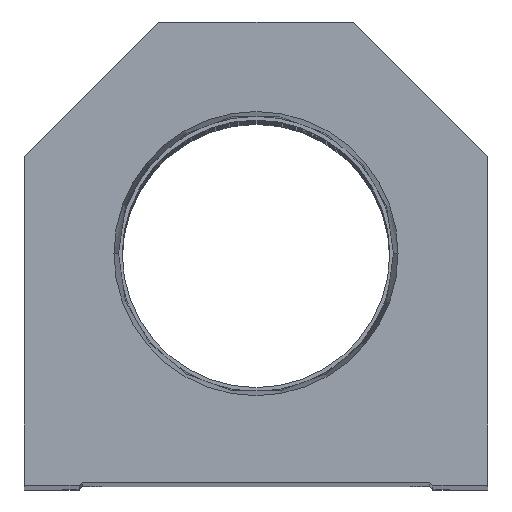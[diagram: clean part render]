
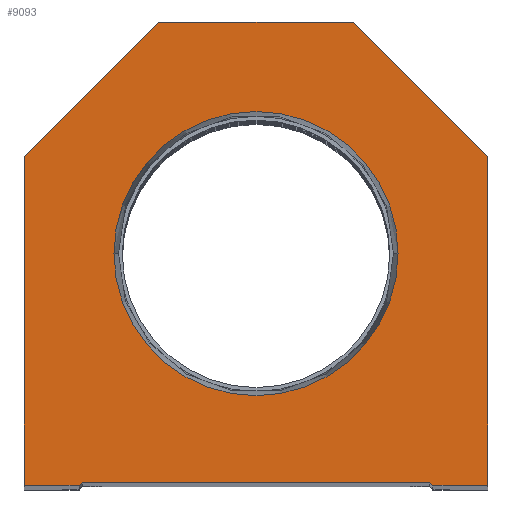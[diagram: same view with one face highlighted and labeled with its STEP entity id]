
A CAD part, top view. The second image highlights one B-rep face of the part: STEP entity #9093.
In plain terms, the highlighted planar face has unit normal (0, 0, 1).
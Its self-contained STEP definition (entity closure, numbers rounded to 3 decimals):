
#46 = VECTOR ( 'NONE', #11772, 1000. ) ;
#159 = ORIENTED_EDGE ( 'NONE', *, *, #9342, .T. ) ;
#284 = CARTESIAN_POINT ( 'NONE',  ( 28.6, 0., 0. ) ) ;
#501 = VERTEX_POINT ( 'NONE', #28058 ) ;
#737 = ORIENTED_EDGE ( 'NONE', *, *, #7680, .T. ) ;
#1243 = EDGE_CURVE ( 'NONE', #25738, #19889, #10236, .T. ) ;
#1634 = AXIS2_PLACEMENT_3D ( 'NONE', #14090, #14243, #16446 ) ;
#1974 = EDGE_LOOP ( 'NONE', ( #1986, #15622 ) ) ;
#1986 = ORIENTED_EDGE ( 'NONE', *, *, #2540, .F. ) ;
#2058 = LINE ( 'NONE', #22334, #3862 ) ;
#2491 = DIRECTION ( 'NONE',  ( 0.707, -0.707, 0. ) ) ;
#2529 = DIRECTION ( 'NONE',  ( 0., 0., 1. ) ) ;
#2540 = EDGE_CURVE ( 'NONE', #10864, #26570, #17704, .T. ) ;
#2826 = CARTESIAN_POINT ( 'NONE',  ( 0., 0., 0. ) ) ;
#3434 = DIRECTION ( 'NONE',  ( 0.707, 0.707, 0. ) ) ;
#3486 = DIRECTION ( 'NONE',  ( 0., 1., 0. ) ) ;
#3862 = VECTOR ( 'NONE', #24229, 1000. ) ;
#4377 = VERTEX_POINT ( 'NONE', #27826 ) ;
#4494 = VECTOR ( 'NONE', #27830, 1000. ) ;
#5037 = CARTESIAN_POINT ( 'NONE',  ( 38.1, 54.1, 0. ) ) ;
#5495 = LINE ( 'NONE', #14770, #16374 ) ;
#5990 = ORIENTED_EDGE ( 'NONE', *, *, #6776, .T. ) ;
#6189 = ORIENTED_EDGE ( 'NONE', *, *, #1243, .T. ) ;
#6434 = CARTESIAN_POINT ( 'NONE',  ( -38.1, 0., 0. ) ) ;
#6593 = VECTOR ( 'NONE', #3486, 1000. ) ;
#6776 = EDGE_CURVE ( 'NONE', #19889, #22499, #28703, .T. ) ;
#7135 = AXIS2_PLACEMENT_3D ( 'NONE', #2826, #2529, #13711 ) ;
#7178 = VECTOR ( 'NONE', #13272, 1000. ) ;
#7680 = EDGE_CURVE ( 'NONE', #18477, #25738, #20431, .T. ) ;
#8425 = VERTEX_POINT ( 'NONE', #6434 ) ;
#8511 = DIRECTION ( 'NONE',  ( -0.707, 0.707, 0. ) ) ;
#8703 = VERTEX_POINT ( 'NONE', #27926 ) ;
#9093 = ADVANCED_FACE ( 'NONE', ( #11799, #22808 ), #25442, .T. ) ;
#9342 = EDGE_CURVE ( 'NONE', #501, #17221, #2058, .T. ) ;
#9562 = DIRECTION ( 'NONE',  ( 1., 0., 0. ) ) ;
#10236 = LINE ( 'NONE', #16749, #6593 ) ;
#10564 = CARTESIAN_POINT ( 'NONE',  ( 38.1, 54.1, 0. ) ) ;
#10737 = VECTOR ( 'NONE', #2491, 1000. ) ;
#10864 = VERTEX_POINT ( 'NONE', #10948 ) ;
#10948 = CARTESIAN_POINT ( 'NONE',  ( 23.374, 38.1, 0. ) ) ;
#11457 = LINE ( 'NONE', #27265, #10737 ) ;
#11620 = CARTESIAN_POINT ( 'NONE',  ( -28.6, 0.5, 0. ) ) ;
#11674 = ORIENTED_EDGE ( 'NONE', *, *, #26620, .T. ) ;
#11772 = DIRECTION ( 'NONE',  ( -1., 0., 0. ) ) ;
#11799 = FACE_BOUND ( 'NONE', #1974, .T. ) ;
#12153 = EDGE_CURVE ( 'NONE', #22499, #501, #27140, .T. ) ;
#12480 = VECTOR ( 'NONE', #8511, 1000. ) ;
#13133 = CARTESIAN_POINT ( 'NONE',  ( 0., 38.1, 0. ) ) ;
#13272 = DIRECTION ( 'NONE',  ( 1., 0., 0. ) ) ;
#13711 = DIRECTION ( 'NONE',  ( 1., 0., 0. ) ) ;
#13822 = LINE ( 'NONE', #22777, #24536 ) ;
#14090 = CARTESIAN_POINT ( 'NONE',  ( 0., 38.1, 0. ) ) ;
#14243 = DIRECTION ( 'NONE',  ( 0., 0., 1. ) ) ;
#14770 = CARTESIAN_POINT ( 'NONE',  ( -14.55, 14.55, 0. ) ) ;
#14840 = CIRCLE ( 'NONE', #1634, 23.374 ) ;
#14880 = CARTESIAN_POINT ( 'NONE',  ( 38.1, 0., 0. ) ) ;
#14974 = ORIENTED_EDGE ( 'NONE', *, *, #23900, .T. ) ;
#15348 = LINE ( 'NONE', #23822, #7178 ) ;
#15622 = ORIENTED_EDGE ( 'NONE', *, *, #19627, .F. ) ;
#15967 = CARTESIAN_POINT ( 'NONE',  ( 16., 76.2, 0. ) ) ;
#16089 = VECTOR ( 'NONE', #26982, 1000. ) ;
#16374 = VECTOR ( 'NONE', #3434, 1000. ) ;
#16423 = CARTESIAN_POINT ( 'NONE',  ( -38.1, 54.1, 0. ) ) ;
#16446 = DIRECTION ( 'NONE',  ( 1., 0., 0. ) ) ;
#16516 = EDGE_LOOP ( 'NONE', ( #11674, #28122, #19814, #14974, #737, #6189, #5990, #17186, #159, #22426 ) ) ;
#16749 = CARTESIAN_POINT ( 'NONE',  ( 38.1, 0., 0. ) ) ;
#17186 = ORIENTED_EDGE ( 'NONE', *, *, #12153, .T. ) ;
#17221 = VERTEX_POINT ( 'NONE', #16423 ) ;
#17555 = DIRECTION ( 'NONE',  ( 1., 0., 0. ) ) ;
#17704 = CIRCLE ( 'NONE', #21014, 23.374 ) ;
#17934 = EDGE_CURVE ( 'NONE', #27934, #8703, #13822, .T. ) ;
#18477 = VERTEX_POINT ( 'NONE', #28739 ) ;
#19517 = EDGE_CURVE ( 'NONE', #17221, #8425, #23478, .T. ) ;
#19601 = DIRECTION ( 'NONE',  ( 0., 0., 1. ) ) ;
#19627 = EDGE_CURVE ( 'NONE', #26570, #10864, #14840, .T. ) ;
#19814 = ORIENTED_EDGE ( 'NONE', *, *, #17934, .T. ) ;
#19889 = VERTEX_POINT ( 'NONE', #5037 ) ;
#20431 = LINE ( 'NONE', #284, #16089 ) ;
#20456 = CARTESIAN_POINT ( 'NONE',  ( 16., 76.2, 0. ) ) ;
#20892 = CARTESIAN_POINT ( 'NONE',  ( -38.1, 0., 0. ) ) ;
#21014 = AXIS2_PLACEMENT_3D ( 'NONE', #13133, #19601, #17555 ) ;
#21512 = CARTESIAN_POINT ( 'NONE',  ( -23.374, 38.1, 0. ) ) ;
#21882 = EDGE_CURVE ( 'NONE', #4377, #27934, #5495, .T. ) ;
#22334 = CARTESIAN_POINT ( 'NONE',  ( -38.1, 54.1, 0. ) ) ;
#22426 = ORIENTED_EDGE ( 'NONE', *, *, #19517, .T. ) ;
#22499 = VERTEX_POINT ( 'NONE', #15967 ) ;
#22777 = CARTESIAN_POINT ( 'NONE',  ( -28.6, 0.5, 0. ) ) ;
#22808 = FACE_OUTER_BOUND ( 'NONE', #16516, .T. ) ;
#23478 = LINE ( 'NONE', #20892, #4494 ) ;
#23822 = CARTESIAN_POINT ( 'NONE',  ( -28.6, 0., 0. ) ) ;
#23900 = EDGE_CURVE ( 'NONE', #8703, #18477, #11457, .T. ) ;
#24229 = DIRECTION ( 'NONE',  ( -0.707, -0.707, 0. ) ) ;
#24536 = VECTOR ( 'NONE', #9562, 1000. ) ;
#25442 = PLANE ( 'NONE',  #7135 ) ;
#25738 = VERTEX_POINT ( 'NONE', #14880 ) ;
#26570 = VERTEX_POINT ( 'NONE', #21512 ) ;
#26620 = EDGE_CURVE ( 'NONE', #8425, #4377, #15348, .T. ) ;
#26982 = DIRECTION ( 'NONE',  ( 1., 0., 0. ) ) ;
#27140 = LINE ( 'NONE', #20456, #46 ) ;
#27265 = CARTESIAN_POINT ( 'NONE',  ( 14.55, 14.55, 0. ) ) ;
#27826 = CARTESIAN_POINT ( 'NONE',  ( -29.1, 0., 0. ) ) ;
#27830 = DIRECTION ( 'NONE',  ( 0., -1., 0. ) ) ;
#27926 = CARTESIAN_POINT ( 'NONE',  ( 28.6, 0.5, 0. ) ) ;
#27934 = VERTEX_POINT ( 'NONE', #11620 ) ;
#28058 = CARTESIAN_POINT ( 'NONE',  ( -16., 76.2, 0. ) ) ;
#28122 = ORIENTED_EDGE ( 'NONE', *, *, #21882, .T. ) ;
#28703 = LINE ( 'NONE', #10564, #12480 ) ;
#28739 = CARTESIAN_POINT ( 'NONE',  ( 29.1, 0., 0. ) ) ;
